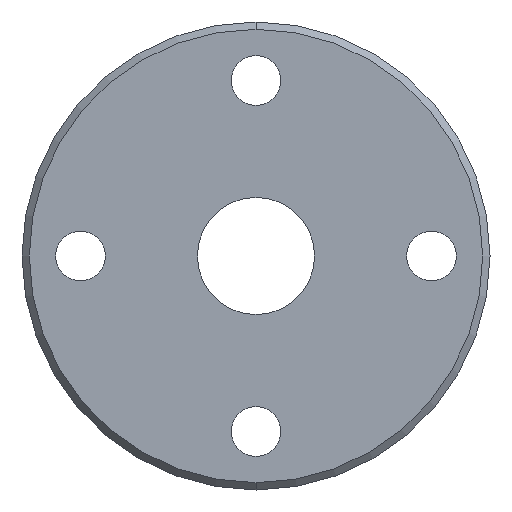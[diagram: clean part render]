
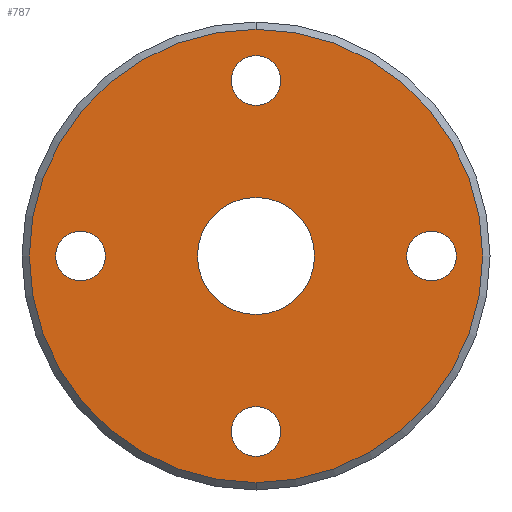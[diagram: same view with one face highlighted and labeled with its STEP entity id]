
A CAD part, front view. The second image highlights one B-rep face of the part: STEP entity #787.
In plain terms, the highlighted planar face has unit normal (0, -1, 0).
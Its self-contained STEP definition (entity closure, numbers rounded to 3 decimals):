
#15 = CARTESIAN_POINT ( 'NONE',  ( 0., 0., -12. ) ) ;
#16 = AXIS2_PLACEMENT_3D ( 'NONE', #708, #317, #719 ) ;
#20 = DIRECTION ( 'NONE',  ( 0., 0., 1. ) ) ;
#26 = CIRCLE ( 'NONE', #750, 1.7 ) ;
#56 = AXIS2_PLACEMENT_3D ( 'NONE', #361, #839, #106 ) ;
#59 = EDGE_LOOP ( 'NONE', ( #628, #715 ) ) ;
#63 = ORIENTED_EDGE ( 'NONE', *, *, #1030, .T. ) ;
#106 = DIRECTION ( 'NONE',  ( 0., 0., 1. ) ) ;
#111 = DIRECTION ( 'NONE',  ( 0., 1., 0. ) ) ;
#113 = CARTESIAN_POINT ( 'NONE',  ( 12., 0., 0. ) ) ;
#124 = DIRECTION ( 'NONE',  ( 0., 1., 0. ) ) ;
#125 = DIRECTION ( 'NONE',  ( 0., 0., -1. ) ) ;
#131 = CARTESIAN_POINT ( 'NONE',  ( 12., 0., 1.7 ) ) ;
#134 = DIRECTION ( 'NONE',  ( 1., 0., 0. ) ) ;
#150 = CARTESIAN_POINT ( 'NONE',  ( 0., 0., -4. ) ) ;
#164 = DIRECTION ( 'NONE',  ( 0., -1., 0. ) ) ;
#171 = CARTESIAN_POINT ( 'NONE',  ( 0., 0., 13.7 ) ) ;
#173 = EDGE_LOOP ( 'NONE', ( #629, #1037 ) ) ;
#180 = CARTESIAN_POINT ( 'NONE',  ( 0., 0., 0. ) ) ;
#183 = CARTESIAN_POINT ( 'NONE',  ( 0., 0., 0. ) ) ;
#187 = DIRECTION ( 'NONE',  ( 0., 1., 0. ) ) ;
#196 = PLANE ( 'NONE',  #853 ) ;
#204 = CIRCLE ( 'NONE', #269, 4. ) ;
#208 = FACE_BOUND ( 'NONE', #790, .T. ) ;
#209 = DIRECTION ( 'NONE',  ( 0., -1., 0. ) ) ;
#223 = CIRCLE ( 'NONE', #255, 1.7 ) ;
#225 = CARTESIAN_POINT ( 'NONE',  ( 0., 0., 15.5 ) ) ;
#255 = AXIS2_PLACEMENT_3D ( 'NONE', #15, #187, #1013 ) ;
#265 = FACE_BOUND ( 'NONE', #173, .T. ) ;
#269 = AXIS2_PLACEMENT_3D ( 'NONE', #180, #918, #125 ) ;
#286 = CARTESIAN_POINT ( 'NONE',  ( -12., 0., 1.7 ) ) ;
#287 = EDGE_CURVE ( 'NONE', #648, #554, #223, .T. ) ;
#288 = DIRECTION ( 'NONE',  ( 0., 1., 0. ) ) ;
#295 = EDGE_CURVE ( 'NONE', #815, #934, #710, .T. ) ;
#312 = ORIENTED_EDGE ( 'NONE', *, *, #370, .T. ) ;
#317 = DIRECTION ( 'NONE',  ( 0., 1., 0. ) ) ;
#318 = CARTESIAN_POINT ( 'NONE',  ( 0., 0., -13.7 ) ) ;
#335 = VERTEX_POINT ( 'NONE', #286 ) ;
#350 = CARTESIAN_POINT ( 'NONE',  ( 0., 0., 12. ) ) ;
#359 = CIRCLE ( 'NONE', #618, 1.7 ) ;
#361 = CARTESIAN_POINT ( 'NONE',  ( 12., 0., 0. ) ) ;
#363 = EDGE_LOOP ( 'NONE', ( #453, #869 ) ) ;
#370 = EDGE_CURVE ( 'NONE', #959, #626, #429, .T. ) ;
#403 = EDGE_CURVE ( 'NONE', #554, #648, #359, .T. ) ;
#405 = VERTEX_POINT ( 'NONE', #704 ) ;
#429 = CIRCLE ( 'NONE', #935, 15.5 ) ;
#436 = DIRECTION ( 'NONE',  ( 0., 0., 1. ) ) ;
#442 = CARTESIAN_POINT ( 'NONE',  ( -12., 0., 0. ) ) ;
#445 = CARTESIAN_POINT ( 'NONE',  ( -12., 0., 0. ) ) ;
#453 = ORIENTED_EDGE ( 'NONE', *, *, #295, .T. ) ;
#457 = ORIENTED_EDGE ( 'NONE', *, *, #646, .T. ) ;
#486 = DIRECTION ( 'NONE',  ( 0., 0., -1. ) ) ;
#514 = DIRECTION ( 'NONE',  ( 0., 0., 1. ) ) ;
#515 = EDGE_LOOP ( 'NONE', ( #651, #638 ) ) ;
#519 = FACE_BOUND ( 'NONE', #515, .T. ) ;
#525 = DIRECTION ( 'NONE',  ( 0., 0., 1. ) ) ;
#537 = FACE_OUTER_BOUND ( 'NONE', #732, .T. ) ;
#538 = AXIS2_PLACEMENT_3D ( 'NONE', #113, #909, #20 ) ;
#554 = VERTEX_POINT ( 'NONE', #318 ) ;
#559 = ORIENTED_EDGE ( 'NONE', *, *, #678, .T. ) ;
#569 = VERTEX_POINT ( 'NONE', #171 ) ;
#599 = DIRECTION ( 'NONE',  ( 0., 1., 0. ) ) ;
#615 = FACE_BOUND ( 'NONE', #59, .T. ) ;
#618 = AXIS2_PLACEMENT_3D ( 'NONE', #636, #958, #1020 ) ;
#626 = VERTEX_POINT ( 'NONE', #925 ) ;
#628 = ORIENTED_EDGE ( 'NONE', *, *, #961, .F. ) ;
#629 = ORIENTED_EDGE ( 'NONE', *, *, #822, .T. ) ;
#633 = AXIS2_PLACEMENT_3D ( 'NONE', #807, #164, #486 ) ;
#636 = CARTESIAN_POINT ( 'NONE',  ( 0., 0., -12. ) ) ;
#638 = ORIENTED_EDGE ( 'NONE', *, *, #403, .T. ) ;
#645 = CARTESIAN_POINT ( 'NONE',  ( 12., 0., -1.7 ) ) ;
#646 = EDGE_CURVE ( 'NONE', #335, #405, #26, .T. ) ;
#648 = VERTEX_POINT ( 'NONE', #680 ) ;
#651 = ORIENTED_EDGE ( 'NONE', *, *, #287, .T. ) ;
#670 = EDGE_CURVE ( 'NONE', #947, #966, #204, .T. ) ;
#674 = DIRECTION ( 'NONE',  ( 0., 0., 1. ) ) ;
#678 = EDGE_CURVE ( 'NONE', #405, #335, #775, .T. ) ;
#680 = CARTESIAN_POINT ( 'NONE',  ( 0., 0., -10.3 ) ) ;
#686 = CIRCLE ( 'NONE', #16, 1.7 ) ;
#692 = CARTESIAN_POINT ( 'NONE',  ( 0., 0., 0. ) ) ;
#704 = CARTESIAN_POINT ( 'NONE',  ( -12., 0., -1.7 ) ) ;
#708 = CARTESIAN_POINT ( 'NONE',  ( 0., 0., 12. ) ) ;
#710 = CIRCLE ( 'NONE', #56, 1.7 ) ;
#715 = ORIENTED_EDGE ( 'NONE', *, *, #670, .F. ) ;
#719 = DIRECTION ( 'NONE',  ( 0., 0., 1. ) ) ;
#723 = AXIS2_PLACEMENT_3D ( 'NONE', #445, #599, #525 ) ;
#732 = EDGE_LOOP ( 'NONE', ( #312, #63 ) ) ;
#733 = DIRECTION ( 'NONE',  ( 0., -1., 0. ) ) ;
#743 = AXIS2_PLACEMENT_3D ( 'NONE', #183, #733, #826 ) ;
#746 = CARTESIAN_POINT ( 'NONE',  ( 0., 0., 0. ) ) ;
#750 = AXIS2_PLACEMENT_3D ( 'NONE', #442, #111, #674 ) ;
#751 = VERTEX_POINT ( 'NONE', #990 ) ;
#759 = CIRCLE ( 'NONE', #743, 15.5 ) ;
#775 = CIRCLE ( 'NONE', #723, 1.7 ) ;
#787 = ADVANCED_FACE ( 'NONE', ( #615, #208, #265, #848, #519, #537 ), #196, .F. ) ;
#790 = EDGE_LOOP ( 'NONE', ( #457, #559 ) ) ;
#796 = CIRCLE ( 'NONE', #988, 1.7 ) ;
#807 = CARTESIAN_POINT ( 'NONE',  ( 0., 0., 0. ) ) ;
#815 = VERTEX_POINT ( 'NONE', #131 ) ;
#822 = EDGE_CURVE ( 'NONE', #569, #751, #796, .T. ) ;
#826 = DIRECTION ( 'NONE',  ( 0., 0., 1. ) ) ;
#839 = DIRECTION ( 'NONE',  ( 0., 1., 0. ) ) ;
#848 = FACE_BOUND ( 'NONE', #363, .T. ) ;
#853 = AXIS2_PLACEMENT_3D ( 'NONE', #692, #124, #134 ) ;
#869 = ORIENTED_EDGE ( 'NONE', *, *, #1024, .T. ) ;
#882 = CARTESIAN_POINT ( 'NONE',  ( 0., 0., 4. ) ) ;
#886 = CIRCLE ( 'NONE', #538, 1.7 ) ;
#903 = EDGE_CURVE ( 'NONE', #751, #569, #686, .T. ) ;
#909 = DIRECTION ( 'NONE',  ( 0., 1., 0. ) ) ;
#918 = DIRECTION ( 'NONE',  ( 0., -1., 0. ) ) ;
#925 = CARTESIAN_POINT ( 'NONE',  ( 0., 0., -15.5 ) ) ;
#934 = VERTEX_POINT ( 'NONE', #645 ) ;
#935 = AXIS2_PLACEMENT_3D ( 'NONE', #746, #209, #514 ) ;
#947 = VERTEX_POINT ( 'NONE', #882 ) ;
#950 = CIRCLE ( 'NONE', #633, 4. ) ;
#958 = DIRECTION ( 'NONE',  ( 0., 1., 0. ) ) ;
#959 = VERTEX_POINT ( 'NONE', #225 ) ;
#961 = EDGE_CURVE ( 'NONE', #966, #947, #950, .T. ) ;
#966 = VERTEX_POINT ( 'NONE', #150 ) ;
#988 = AXIS2_PLACEMENT_3D ( 'NONE', #350, #288, #436 ) ;
#990 = CARTESIAN_POINT ( 'NONE',  ( 0., 0., 10.3 ) ) ;
#1013 = DIRECTION ( 'NONE',  ( 0., 0., 1. ) ) ;
#1020 = DIRECTION ( 'NONE',  ( 0., 0., 1. ) ) ;
#1024 = EDGE_CURVE ( 'NONE', #934, #815, #886, .T. ) ;
#1030 = EDGE_CURVE ( 'NONE', #626, #959, #759, .T. ) ;
#1037 = ORIENTED_EDGE ( 'NONE', *, *, #903, .T. ) ;
